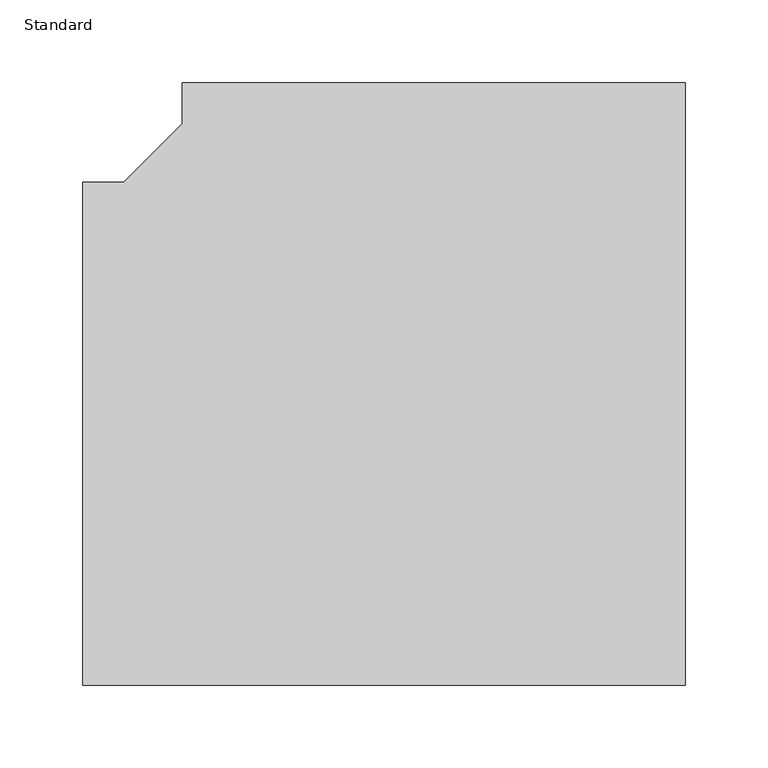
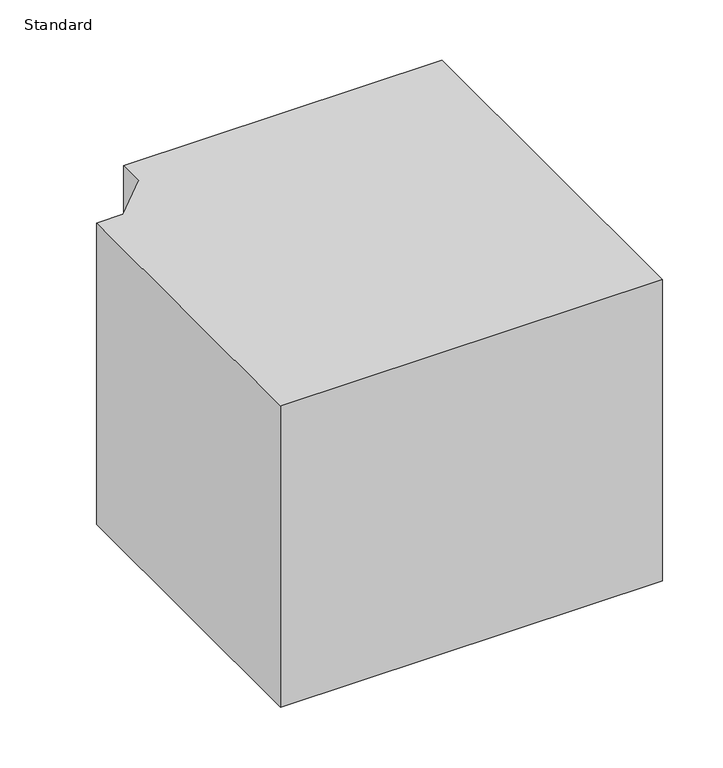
"""IFC4 building model written with IfcOpenShell, lengths in millimetres: duct fitting geometry, M_Rectangular Elbow - Beveled Throat - Sharp Heel : Standard."""

from ifc_helpers import new_model, si_unit, frame, origin, place, context, project, spatial, polyline, outline, extrude, source, transform, mapped, element, save


def standard_a370b89d(model_context):
    return source(origin(), model_context, "Body", "SweptSolid", [
        extrude(outline(polyline([(-212.7553391, -152.4), (-212.7553391, 152.4), (-187.7553391, 152.4), (-152.4, 187.7553391), (-152.4, 212.7553391), (152.4, 212.7553391), (152.4, -152.4), (-212.7553391, -152.4)])), frame((0.0, 0.0, -152.4), z_axis=(0.0, 0.0, 1.0), x_axis=(1.0, 0.0, 0.0)), (0.0, 0.0, 1.0), 304.8),
    ])


if __name__ == "__main__":
    model = new_model("IFC4")
    model_context = context("Model", 3, world=origin())
    ifc_project = project(units=[si_unit("LENGTHUNIT", "METRE", prefix="MILLI")], contexts=[model_context])
    site = spatial("IfcSite", under=ifc_project)
    building = spatial("IfcBuilding", under=site)
    placement = place(None, origin())
    standard_shape = standard_a370b89d(model_context)
    element("IfcDuctFitting", 1, ObjectType="M_Rectangular Elbow - Beveled Throat - Sharp Heel : Standard", at=placement, inside=building, context=model_context, shape_type="MappedRepresentation", body=[
        mapped(standard_shape, transform((0.0, 0.0, 0.0), x_axis=(1.0, 0.0, 0.0), y_axis=(0.0, 1.0, 0.0), z_axis=(0.0, 0.0, 1.0))),
    ])
    save(model, "model.ifc")
